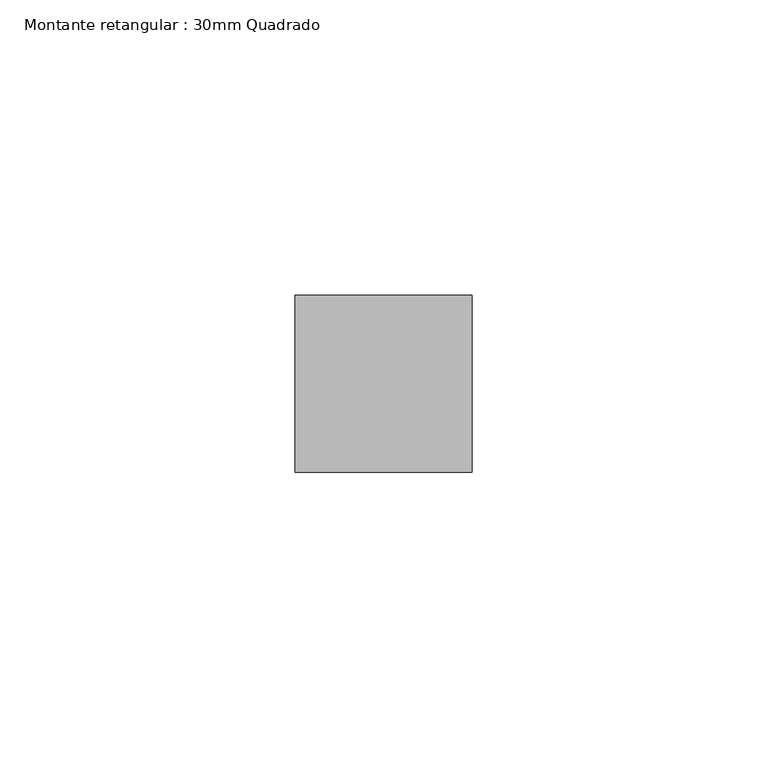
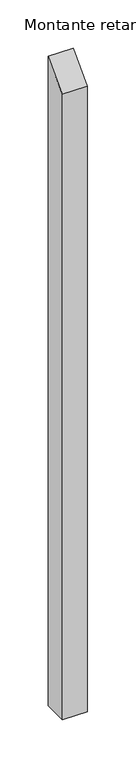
"""IFC4 building model written with IfcOpenShell, lengths in millimetres: member geometry, Montante retangular : 30mm Quadrado."""

from ifc_helpers import new_model, si_unit, frame, origin, place, context, project, spatial, polyline, outline, extrude, source, transform, mapped, element, save


def montante_retangular_30mm_quadrado_acd4bc9d(model_context):
    return source(origin(), model_context, "Body", "SweptSolid", [
        extrude(outline(polyline([(-15.0, -15.0), (15.0, 15.0), (15.0, -809.5767196), (-15.0, -809.5767196), (-15.0, -15.0)])), frame((-30.0, 0.0, 0.0), z_axis=(1.0, 0.0, 0.0), x_axis=(0.0, 1.0, 0.0)), (0.0, 0.0, 1.0), 30.0),
    ])


if __name__ == "__main__":
    model = new_model("IFC4")
    model_context = context("Model", 3, world=origin())
    ifc_project = project(units=[si_unit("LENGTHUNIT", "METRE", prefix="MILLI")], contexts=[model_context])
    site = spatial("IfcSite", under=ifc_project)
    building = spatial("IfcBuilding", under=site)
    placement = place(None, origin())
    montante_retangular_30mm_quadrado_shape = montante_retangular_30mm_quadrado_acd4bc9d(model_context)
    element("IfcMember", 1, ObjectType="Montante retangular : 30mm Quadrado", at=placement, inside=building, context=model_context, shape_type="MappedRepresentation", body=[
        mapped(montante_retangular_30mm_quadrado_shape, transform((0.0, 0.0, 0.0), x_axis=(1.0, 0.0, 0.0), y_axis=(0.0, 1.0, 0.0), z_axis=(0.0, 0.0, 1.0))),
    ])
    save(model, "model.ifc")
